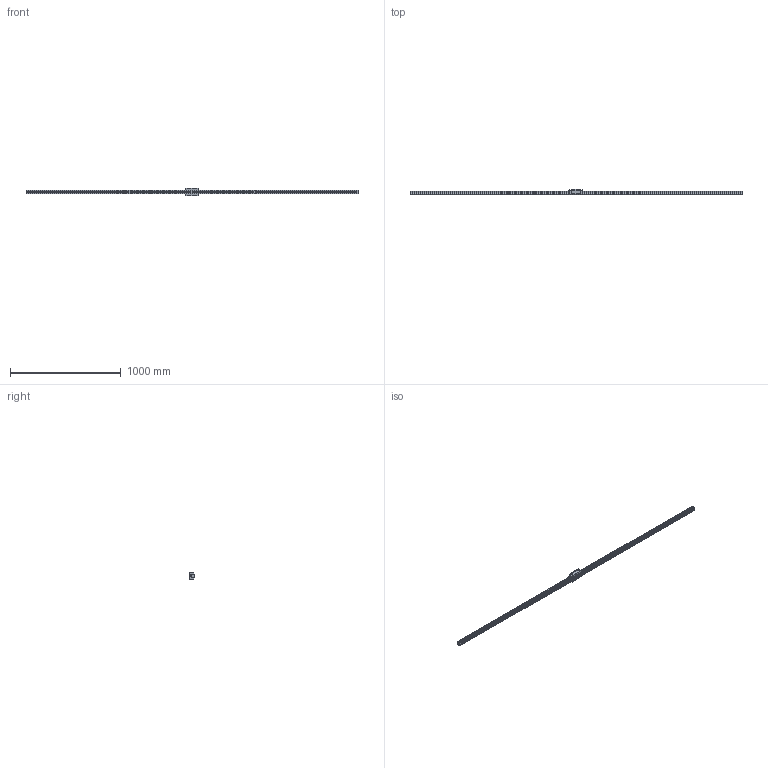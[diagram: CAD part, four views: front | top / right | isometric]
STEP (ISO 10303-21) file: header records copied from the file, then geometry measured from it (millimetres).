
FILE_DESCRIPTION(/* description */ ('STEP AP214'),/* implementation_level */ '2;1');
FILE_NAME(/* name */ 'HDR35V1SS-3000L_G20_0_B-M6F_1441-75_0_0_01',/* time_stamp */ '2023-06-30T13:00:58+02:00',/* author */ ('License CC BY-ND 4.0'),/* organization */ ('CADENAS'),/* preprocessor_version */ 'ST-DEVELOPER v19.3',/* originating_system */ 'PARTsolutions',/* authorisation */ ' ');
FILE_SCHEMA (('CONFIG_CONTROL_DESIGN','AUTOMOTIVE_DESIGN {1 0 10303 214 3 1 1}'));
Length unit declared in the file: millimetre
Products named in the file (4): HDR35V1SS-3000L_G20_0_B-M6F_1441-75_0_0_01; hsr_ftht_B-M6F_grease_nipple_joint; HDR35VSSB-M6F1 Slider; HDR35V1300020 Rail
Assembly tree (3 placements, depth 2):
  HDR35V1SS-3000L_G20_0_B-M6F_1441-75_0_0_01
    hsr_ftht_B-M6F_grease_nipple_joint
    HDR35VSSB-M6F1 Slider
    HDR35V1300020 Rail
Bounding box: 3000 x 48 x 70 mm (x, y, z)
Volume: 2744674.9 mm3; surface area: 488147 mm2
Topology: 3 solids, 3 shells, 442 faces, 1138 edges, 709 vertices
Faces by surface type: plane 268, cylinder 144, cone 25, sphere 3, torus 2
Full cylindrical faces by diameter (mm): 4.917 x2, 5.2 x4, 6 x1, 6.647 x6, 8 x1, 9 x38, 10 x2, 14 x38
Entity records: 13087 total; most frequent: DIRECTION 2382, CARTESIAN_POINT 2257, ORIENTED_EDGE 2016, EDGE_CURVE 1008, AXIS2_PLACEMENT_3D 952, VERTEX_POINT 703, FACE_BOUND 649, EDGE_LOOP 641
